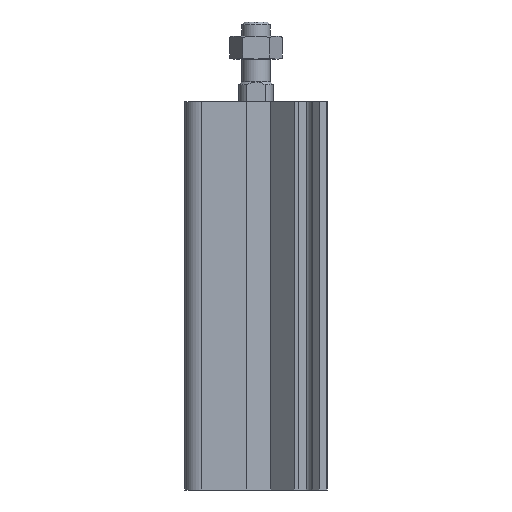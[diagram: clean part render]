
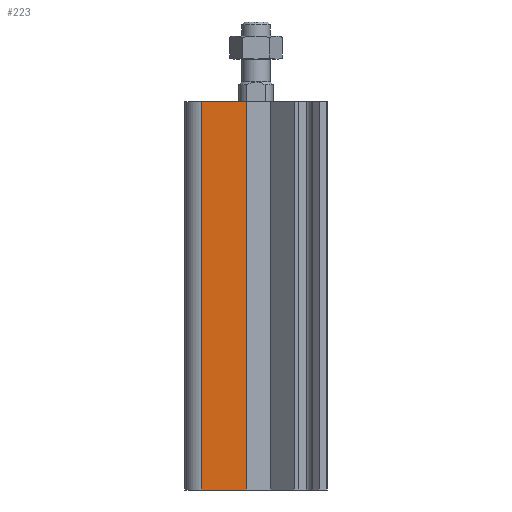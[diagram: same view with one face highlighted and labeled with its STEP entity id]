
A CAD part, left-side view. The second image highlights one B-rep face of the part: STEP entity #223.
In plain terms, the highlighted planar face has unit normal (-1, 0, 0).
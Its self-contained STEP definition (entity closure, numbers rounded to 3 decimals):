
#223 = ADVANCED_FACE( '', ( #505 ), #506, .T. );
#505 = FACE_OUTER_BOUND( '', #873, .T. );
#506 = PLANE( '', #874 );
#873 = EDGE_LOOP( '', ( #1344, #1345, #1346, #1347 ) );
#874 = AXIS2_PLACEMENT_3D( '', #1348, #1349, #1350 );
#1344 = ORIENTED_EDGE( '', *, *, #2022, .F. );
#1345 = ORIENTED_EDGE( '', *, *, #2023, .F. );
#1346 = ORIENTED_EDGE( '', *, *, #1977, .T. );
#1347 = ORIENTED_EDGE( '', *, *, #2024, .T. );
#1348 = CARTESIAN_POINT( '', ( -12.5, 9.5, -68. ) );
#1349 = DIRECTION( '', ( -1., 0., 0. ) );
#1350 = DIRECTION( '', ( 0., 0., 1. ) );
#1977 = EDGE_CURVE( '', #2282, #2321, #2323, .T. );
#2022 = EDGE_CURVE( '', #2394, #2395, #2396, .T. );
#2023 = EDGE_CURVE( '', #2282, #2394, #2397, .T. );
#2024 = EDGE_CURVE( '', #2321, #2395, #2398, .T. );
#2282 = VERTEX_POINT( '', #2747 );
#2321 = VERTEX_POINT( '', #2802 );
#2323 = LINE( '', #2805, #2806 );
#2394 = VERTEX_POINT( '', #2912 );
#2395 = VERTEX_POINT( '', #2913 );
#2396 = LINE( '', #2914, #2915 );
#2397 = LINE( '', #2916, #2917 );
#2398 = LINE( '', #2918, #2919 );
#2747 = CARTESIAN_POINT( '', ( -12.5, 9.5, -68. ) );
#2802 = CARTESIAN_POINT( '', ( -12.5, 1.726, -68. ) );
#2805 = CARTESIAN_POINT( '', ( -12.5, 9.5, -68. ) );
#2806 = VECTOR( '', #3309, 1000. );
#2912 = CARTESIAN_POINT( '', ( -12.5, 9.5, 0. ) );
#2913 = CARTESIAN_POINT( '', ( -12.5, 1.726, 0. ) );
#2914 = CARTESIAN_POINT( '', ( -12.5, 9.5, 0. ) );
#2915 = VECTOR( '', #3366, 1000. );
#2916 = CARTESIAN_POINT( '', ( -12.5, 9.5, -68. ) );
#2917 = VECTOR( '', #3367, 1000. );
#2918 = CARTESIAN_POINT( '', ( -12.5, 1.726, -68. ) );
#2919 = VECTOR( '', #3368, 1000. );
#3309 = DIRECTION( '', ( 0., -1., 0. ) );
#3366 = DIRECTION( '', ( 0., -1., 0. ) );
#3367 = DIRECTION( '', ( 0., 0., 1. ) );
#3368 = DIRECTION( '', ( 0., 0., 1. ) );
